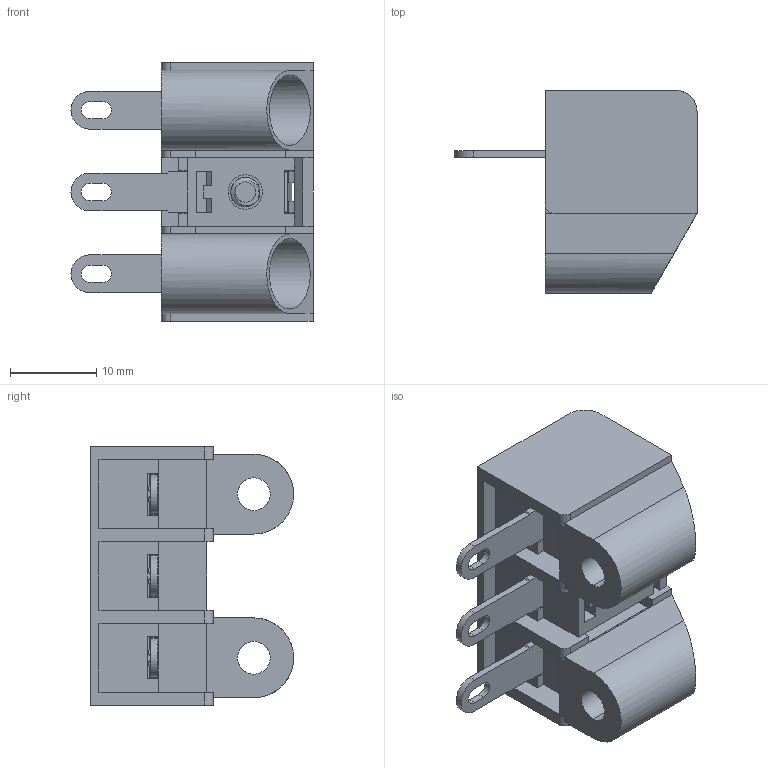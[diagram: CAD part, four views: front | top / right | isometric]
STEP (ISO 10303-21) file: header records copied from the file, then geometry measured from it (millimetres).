
FILE_DESCRIPTION((''),'2;1');
FILE_NAME('3PIN','2021-05-07T',('hanke'),(''),'CREO PARAMETRIC BY PTC INC, 2016260','CREO PARAMETRIC BY PTC INC, 2016260','');
FILE_SCHEMA(('CONFIG_CONTROL_DESIGN'));
Products named in the file (1): 3PIN
Bounding box: 28.1 x 23.59 x 30 mm (x, y, z)
Volume: 5086.1 mm3; surface area: 8051.5 mm2
Topology: 4 solids, 8 shells, 949 faces, 2722 edges, 1776 vertices
Faces by surface type: plane 594, cylinder 163, bspline 162, torus 18, cone 12
Entity records: 54259 total; most frequent: CARTESIAN_POINT 31322, ORIENTED_EDGE 5432, DIRECTION 3754, EDGE_CURVE 2716, VERTEX_POINT 1776, VECTOR 1560, LINE 1560, AXIS2_PLACEMENT_3D 1097
